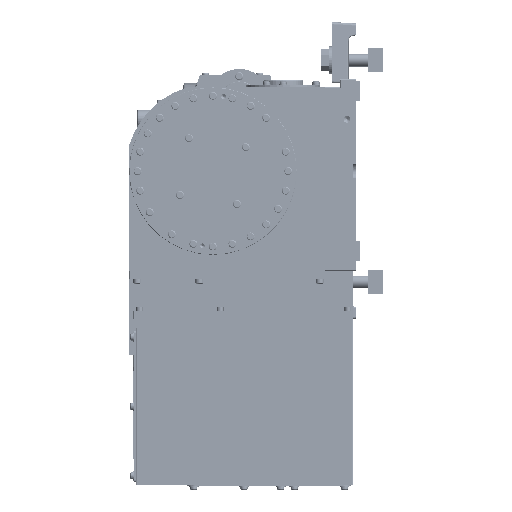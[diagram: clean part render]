
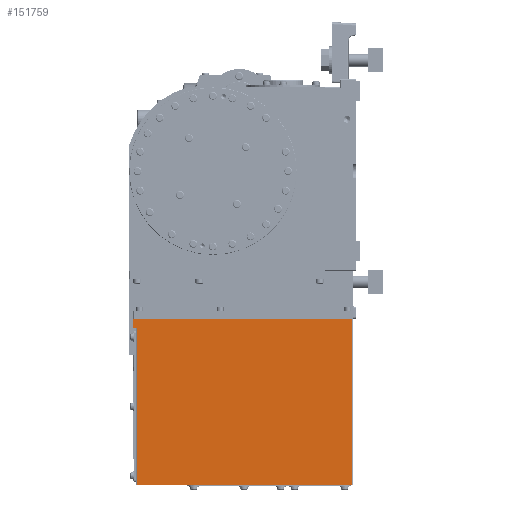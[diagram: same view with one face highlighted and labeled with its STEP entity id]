
A CAD part, left-side view. The second image highlights one B-rep face of the part: STEP entity #151759.
In plain terms, the highlighted planar face has unit normal (-1, 0, 0) as drawn and (0, 0, -1) by its records, which use the part's own axes.
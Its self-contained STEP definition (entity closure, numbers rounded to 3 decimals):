
#4163 = VECTOR ( 'NONE', #144520, 1000. ) ;
#6143 = ORIENTED_EDGE ( 'NONE', *, *, #56301, .T. ) ;
#9604 = FACE_OUTER_BOUND ( 'NONE', #47795, .T. ) ;
#11851 = CARTESIAN_POINT ( 'NONE',  ( 208., 276., -177. ) ) ;
#12705 = LINE ( 'NONE', #60754, #133237 ) ;
#13466 = CARTESIAN_POINT ( 'NONE',  ( 208., 271., -177. ) ) ;
#20841 = ORIENTED_EDGE ( 'NONE', *, *, #43284, .F. ) ;
#23950 = AXIS2_PLACEMENT_3D ( 'NONE', #150614, #56582, #166319 ) ;
#27527 = VECTOR ( 'NONE', #94057, 1000. ) ;
#27838 = ORIENTED_EDGE ( 'NONE', *, *, #55918, .T. ) ;
#28004 = VERTEX_POINT ( 'NONE', #154344 ) ;
#32835 = ORIENTED_EDGE ( 'NONE', *, *, #114703, .F. ) ;
#35037 = VERTEX_POINT ( 'NONE', #183722 ) ;
#42420 = DIRECTION ( 'NONE',  ( 0., 1., 0. ) ) ;
#42839 = CARTESIAN_POINT ( 'NONE',  ( 208., 2., -177. ) ) ;
#43284 = EDGE_CURVE ( 'NONE', #186571, #35037, #129345, .T. ) ;
#46135 = LINE ( 'NONE', #50518, #4163 ) ;
#47795 = EDGE_LOOP ( 'NONE', ( #145955, #27838, #32835, #6143, #116480, #20841 ) ) ;
#50518 = CARTESIAN_POINT ( 'NONE',  ( 12., 276., -177. ) ) ;
#52002 = EDGE_CURVE ( 'NONE', #28004, #186571, #46135, .T. ) ;
#55915 = PLANE ( 'NONE',  #23950 ) ;
#55918 = EDGE_CURVE ( 'NONE', #28004, #154690, #69474, .T. ) ;
#56301 = EDGE_CURVE ( 'NONE', #199890, #62338, #12705, .T. ) ;
#56582 = DIRECTION ( 'NONE',  ( 0., 0., 1. ) ) ;
#57761 = LINE ( 'NONE', #102871, #136373 ) ;
#60754 = CARTESIAN_POINT ( 'NONE',  ( 208., 2., -177. ) ) ;
#62338 = VERTEX_POINT ( 'NONE', #104014 ) ;
#69474 = LINE ( 'NONE', #13466, #27527 ) ;
#82066 = CARTESIAN_POINT ( 'NONE',  ( 12., 276., -177. ) ) ;
#85239 = EDGE_CURVE ( 'NONE', #62338, #35037, #198460, .T. ) ;
#91749 = DIRECTION ( 'NONE',  ( -1., 0., 0. ) ) ;
#94057 = DIRECTION ( 'NONE',  ( 1., 0., 0. ) ) ;
#102871 = CARTESIAN_POINT ( 'NONE',  ( 208., 276., -177. ) ) ;
#104014 = CARTESIAN_POINT ( 'NONE',  ( 0., 2., -177. ) ) ;
#114703 = EDGE_CURVE ( 'NONE', #199890, #154690, #57761, .T. ) ;
#116480 = ORIENTED_EDGE ( 'NONE', *, *, #85239, .T. ) ;
#119990 = VECTOR ( 'NONE', #42420, 1000. ) ;
#121928 = DIRECTION ( 'NONE',  ( -1., 0., 0. ) ) ;
#129345 = LINE ( 'NONE', #11851, #170983 ) ;
#133237 = VECTOR ( 'NONE', #91749, 1000. ) ;
#133673 = DIRECTION ( 'NONE',  ( 0., 1., 0. ) ) ;
#136373 = VECTOR ( 'NONE', #133673, 1000. ) ;
#144520 = DIRECTION ( 'NONE',  ( 0., 1., 0. ) ) ;
#145955 = ORIENTED_EDGE ( 'NONE', *, *, #52002, .F. ) ;
#150614 = CARTESIAN_POINT ( 'NONE',  ( 208., 276., -177. ) ) ;
#151759 = ADVANCED_FACE ( 'NONE', ( #9604 ), #55915, .F. ) ;
#154344 = CARTESIAN_POINT ( 'NONE',  ( 12., 271., -177. ) ) ;
#154690 = VERTEX_POINT ( 'NONE', #191136 ) ;
#166319 = DIRECTION ( 'NONE',  ( 0., -1., 0. ) ) ;
#167255 = CARTESIAN_POINT ( 'NONE',  ( 0., 276., -177. ) ) ;
#170983 = VECTOR ( 'NONE', #121928, 1000. ) ;
#183722 = CARTESIAN_POINT ( 'NONE',  ( 0., 276., -177. ) ) ;
#186571 = VERTEX_POINT ( 'NONE', #82066 ) ;
#191136 = CARTESIAN_POINT ( 'NONE',  ( 208., 271., -177. ) ) ;
#198460 = LINE ( 'NONE', #167255, #119990 ) ;
#199890 = VERTEX_POINT ( 'NONE', #42839 ) ;
